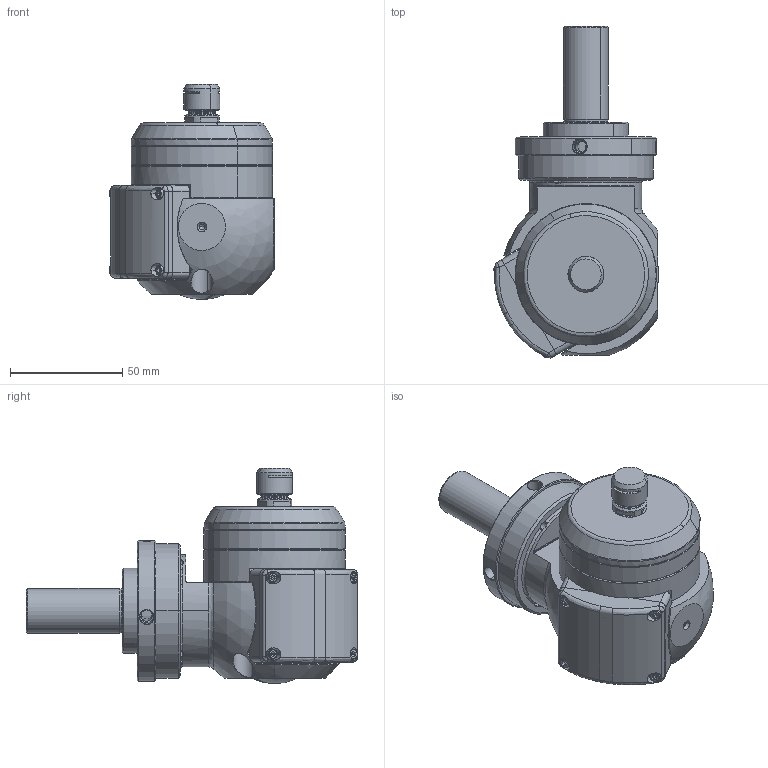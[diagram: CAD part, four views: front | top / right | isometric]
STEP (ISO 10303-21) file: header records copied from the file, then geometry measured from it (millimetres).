
FILE_DESCRIPTION (( 'STEP AP214' ), '1' );
FILE_NAME ('ST20 ANGLE HEAD -RW-GJET.STEP', '2023-08-13T09:36:32', ( '' ), ( '' ), 'SwSTEP 2.0', 'SolidWorks 2019', '' );
FILE_SCHEMA (( 'AUTOMOTIVE_DESIGN' ));
Length unit declared in the file: millimetre
Products named in the file (20): 27-188-092; TJER-093; O-Ring 9.25x1.78; O-Ring 15.6x1.78; O-Ring 45.0x1.0-rectangle; UP-122; PCB_4-19; M5x10-DIN912; TJST-121_C BORE; TJS GJET TR FC Customer Model without speed sensor; ST20 ANGLE HEAD -RW-GJET; PCB_V4 hole dia. 5 mm; Hex Nuts (DIN 934)_Nut M4; TJGS-003; M2.5x8-DIN912; M3x6-DIN912; CR2 battery holder; TJEH-003; TJEH-002; speed sensor GJET_TJEH
Assembly tree (29 placements, depth 3):
  ST20 ANGLE HEAD -RW-GJET
    TJST-121_C BORE
    O-Ring 15.6x1.78
    TJS GJET TR FC Customer Model without speed sensor
    M5x10-DIN912  x3
    TJER-093
    speed sensor GJET_TJEH
      TJEH-003
      UP-122  x4
      PCB_V4 hole dia. 5 mm
      CR2 battery holder
      27-188-092
      O-Ring 45.0x1.0-rectangle
      M2.5x8-DIN912  x4
      TJGS-003
      TJEH-002
      O-Ring 9.25x1.78
      M3x6-DIN912  x2
      Hex Nuts (DIN 934)_Nut M4  x2
      PCB_4-19
Bounding box: 73.81 x 148 x 95.89 mm (x, y, z)
Volume: 332677.6 mm3; surface area: 95538.7 mm2
Topology: 28 solids, 28 shells, 1470 faces, 3492 edges, 2125 vertices
Faces by surface type: plane 501, cylinder 437, cone 315, torus 144, bspline 71, sphere 2
Entity records: 45048 total; most frequent: CARTESIAN_POINT 17055, DIRECTION 5694, ORIENTED_EDGE 5310, EDGE_CURVE 2655, AXIS2_PLACEMENT_3D 2282, VERTEX_POINT 1627, EDGE_LOOP 1272, CIRCLE 1194
